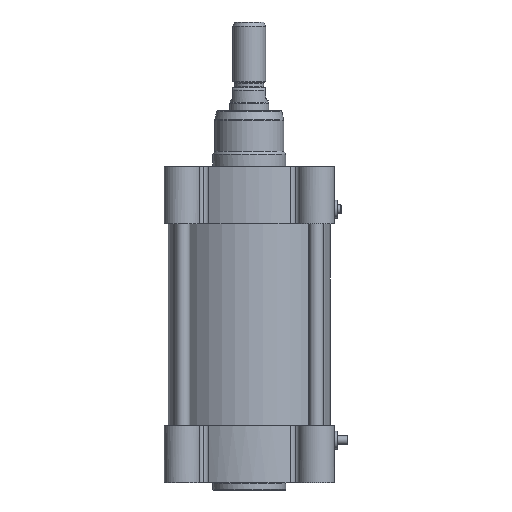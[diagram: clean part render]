
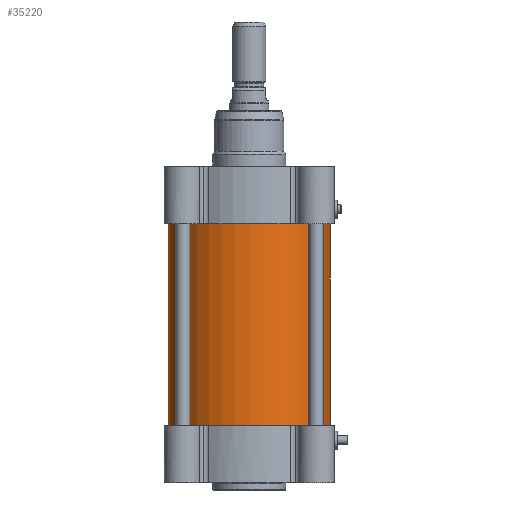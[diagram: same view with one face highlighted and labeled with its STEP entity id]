
A CAD part, front view. The second image highlights one B-rep face of the part: STEP entity #35220.
In plain terms, the highlighted cylindrical face has radius 66.5 mm (diameter 133 mm), a partial arc.
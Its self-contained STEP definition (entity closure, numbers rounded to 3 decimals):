
#2066 = DIRECTION ( 'NONE',  ( 0., 0., 1. ) ) ;
#2097 = VECTOR ( 'NONE', #13584, 1000. ) ;
#2157 = VECTOR ( 'NONE', #2066, 1000. ) ;
#4754 = VERTEX_POINT ( 'NONE', #7760 ) ;
#5700 = VERTEX_POINT ( 'NONE', #34419 ) ;
#7760 = CARTESIAN_POINT ( 'NONE',  ( 66.5, 0., 0. ) ) ;
#7976 = AXIS2_PLACEMENT_3D ( 'NONE', #17510, #25682, #20404 ) ;
#9704 = AXIS2_PLACEMENT_3D ( 'NONE', #17531, #30970, #17368 ) ;
#12233 = CYLINDRICAL_SURFACE ( 'NONE', #7976, 66.5 ) ;
#12749 = VERTEX_POINT ( 'NONE', #35340 ) ;
#13002 = ORIENTED_EDGE ( 'NONE', *, *, #23529, .T. ) ;
#13332 = ORIENTED_EDGE ( 'NONE', *, *, #26182, .F. ) ;
#13584 = DIRECTION ( 'NONE',  ( 0., 0., 1. ) ) ;
#16403 = EDGE_LOOP ( 'NONE', ( #13332, #22310, #13002, #29710 ) ) ;
#16983 = FACE_OUTER_BOUND ( 'NONE', #16403, .T. ) ;
#17368 = DIRECTION ( 'NONE',  ( -1., 0., 0. ) ) ;
#17510 = CARTESIAN_POINT ( 'NONE',  ( 0., 0., 0. ) ) ;
#17531 = CARTESIAN_POINT ( 'NONE',  ( 0., 0., 0. ) ) ;
#18524 = EDGE_CURVE ( 'NONE', #12749, #5700, #30841, .T. ) ;
#20404 = DIRECTION ( 'NONE',  ( -1., 0., 0. ) ) ;
#20729 = EDGE_CURVE ( 'NONE', #4754, #23774, #32564, .T. ) ;
#22310 = ORIENTED_EDGE ( 'NONE', *, *, #20729, .T. ) ;
#23529 = EDGE_CURVE ( 'NONE', #23774, #5700, #28855, .T. ) ;
#23774 = VERTEX_POINT ( 'NONE', #25893 ) ;
#25403 = CARTESIAN_POINT ( 'NONE',  ( -66.5, 0., 0. ) ) ;
#25682 = DIRECTION ( 'NONE',  ( 0., 0., 1. ) ) ;
#25893 = CARTESIAN_POINT ( 'NONE',  ( 66.5, 0., 166. ) ) ;
#25945 = DIRECTION ( 'NONE',  ( 0., 0., -1. ) ) ;
#26182 = EDGE_CURVE ( 'NONE', #4754, #12749, #28853, .T. ) ;
#26574 = CARTESIAN_POINT ( 'NONE',  ( 66.5, 0., 0. ) ) ;
#27635 = AXIS2_PLACEMENT_3D ( 'NONE', #31393, #25945, #31563 ) ;
#28853 = CIRCLE ( 'NONE', #9704, 66.5 ) ;
#28855 = CIRCLE ( 'NONE', #27635, 66.5 ) ;
#29710 = ORIENTED_EDGE ( 'NONE', *, *, #18524, .F. ) ;
#30841 = LINE ( 'NONE', #25403, #2097 ) ;
#30970 = DIRECTION ( 'NONE',  ( 0., 0., -1. ) ) ;
#31393 = CARTESIAN_POINT ( 'NONE',  ( 0., 0., 166. ) ) ;
#31563 = DIRECTION ( 'NONE',  ( -1., 0., 0. ) ) ;
#32564 = LINE ( 'NONE', #26574, #2157 ) ;
#34419 = CARTESIAN_POINT ( 'NONE',  ( -66.5, 0., 166. ) ) ;
#35220 = ADVANCED_FACE ( 'NONE', ( #16983 ), #12233, .T. ) ;
#35340 = CARTESIAN_POINT ( 'NONE',  ( -66.5, 0., 0. ) ) ;
